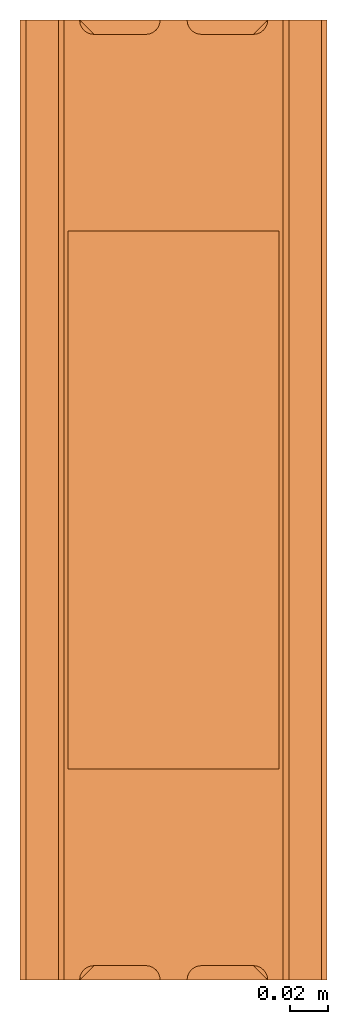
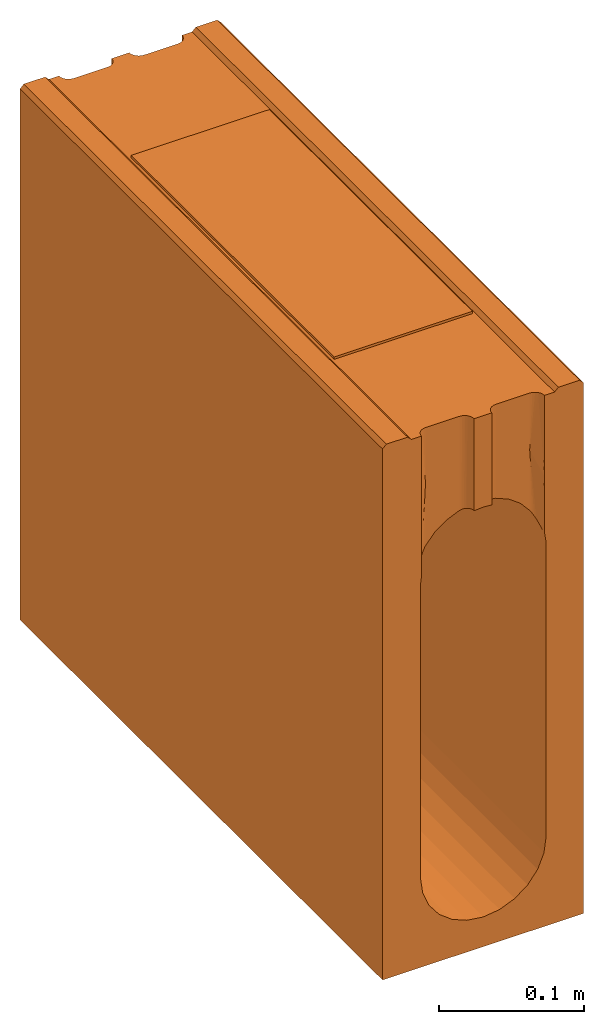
# One storey: 1 proxy.
"""IFC2X3 building model written with IfcOpenShell, lengths in millimetres."""

from ifc_helpers import new_model, entity, si_unit, converted_unit, direction, frame, origin, place, context, subcontext, project, spatial, faceted_brep, source, transform, mapped, material, element, save


model = new_model("IFC2X3")

# Units and contexts
model_context = context("Model", 3, precision=1e-06, world=origin(), true_north=direction((2.0, 6.12303176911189e-17, 1.0)))
context_of_model = context(None, 3, precision=1e-06, world=origin(), true_north=direction((2.0, 6.12303176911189e-17, 1.0)))
body_context = subcontext(model_context, "Body", "Model", "MODEL_VIEW")
ifc_project = project(units=[si_unit("LENGTHUNIT", "METRE", prefix="MILLI"), si_unit("AREAUNIT", "SQUARE_METRE", prefix="MILLI"), si_unit("VOLUMEUNIT", "CUBIC_METRE", prefix="MILLI"), converted_unit("PLANEANGLEUNIT", "DEGREE", entity("IfcRatioMeasure", 0.0174532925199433), si_unit("PLANEANGLEUNIT", "RADIAN"), dimensions=[0, 0, 0, 0, 0, 0, 0]), si_unit("TIMEUNIT", "SECOND")], contexts=[model_context, context_of_model])

# Site, building, storey
site_placement = place(None, origin())
site = spatial("IfcSite", under=ifc_project, at=site_placement, Name="Default", CompositionType="ELEMENT")
building_placement = place(site_placement, origin())
building = spatial("IfcBuilding", under=site, at=building_placement, CompositionType="ELEMENT")
storey_placement = place(building_placement, frame((0.0, 0.0, -4600.0)))
storey = spatial("IfcBuildingStorey", under=building, at=storey_placement, Name="B.O. Footing", CompositionType="ELEMENT", Elevation=-4600.0)

# Proxy
ifc_material = material(Name="Acetal Resin, Black")
shared_shape = source(origin(), body_context, "Body", "Brep", [
    faceted_brep([(6.99967983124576, 500.0, -3.0), (6.99967983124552, 500.0, -80.4539215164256), (-0.0189173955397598, 500.0, -79.9969682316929), (-7.0, 500.0, -80.5246623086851), (-7.0, 500.0, -3.0), (-80.0, 0.0, -450.0), (-48.0462913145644, 0.0, -387.940952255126), (-49.7500000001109, 0.0, -375.0), (-43.0512701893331, 0.0, -400.0), (-49.7499999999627, 0.0, -129.996245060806), (-12.6909522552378, 0.0, -423.296291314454), (-24.7500000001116, 0.0, -418.301270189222), (-35.1053390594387, 0.0, -410.355339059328), (0.24999999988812, 0.0, -425.0), (80.0, 0.0, -450.0), (-57.0, 0.0, -3.0), (-60.0, 0.0, 0.0), (-80.0, 0.0, -3.0), (-49.0, 0.0, -121.368528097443), (-77.0, 0.0, 0.0), (-49.5603428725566, 0.0, -125.645412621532), (-49.0, 0.0, -73.5563937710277), (-49.0, 0.0, -3.0), (13.190952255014, 0.0, -423.296291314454), (35.6053390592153, 0.0, -410.355339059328), (25.2499999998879, 0.0, -418.301270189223), (43.5512701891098, 0.0, -400.0), (48.5462913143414, 0.0, -387.940952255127), (50.2499999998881, 0.0, -375.0), (50.2499999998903, 0.0, -129.996245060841), (80.0, 0.0, -3.00030384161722), (49.0, 0.0, -118.886002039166), (49.9333247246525, 0.0, -124.377771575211), (57.0, 0.0, -3.0), (49.0, 0.0, -3.0), (49.0, 0.0, -71.0738676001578), (76.9996961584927, 0.0, 0.0), (60.0, 0.0, 0.0), (-7.0, 0.0, -3.0), (-7.0, 0.0, -80.5246623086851), (-0.0172292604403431, 0.0, -79.9969591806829), (6.99967983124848, 0.0, -80.4539215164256), (6.99967983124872, 0.0, -3.0), (80.0, 500.0, -450.0), (48.5462913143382, 500.0, -387.940952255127), (50.2499999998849, 500.0, -375.0), (43.5512701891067, 500.0, -400.0), (50.250000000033, 500.0, -129.996245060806), (13.1909522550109, 500.0, -423.296291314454), (25.2499999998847, 500.0, -418.301270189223), (35.6053390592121, 500.0, -410.355339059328), (0.249999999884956, 500.0, -425.0), (-80.0, 500.0, -450.0), (57.0, 500.0, -3.0), (76.9996961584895, 500.0, 0.0), (80.0, 500.0, -3.00030384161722), (49.0, 500.0, -118.886002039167), (60.0, 500.0, 0.0), (49.9336821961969, 500.0, -124.380933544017), (49.0, 500.0, -71.0738670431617), (49.0, 500.0, -3.0), (-12.6909522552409, 500.0, -423.296291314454), (-35.1053390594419, 500.0, -410.355339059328), (-24.7500000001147, 500.0, -418.301270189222), (-43.0512701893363, 500.0, -400.0), (-48.0462913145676, 500.0, -387.940952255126), (-49.750000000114, 500.0, -375.0), (-49.7499999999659, 500.0, -129.996245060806), (-80.0, 500.0, -3.0), (-49.0, 500.0, -121.368528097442), (-49.559996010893, 500.0, -125.641443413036), (-57.0, 500.0, -3.0), (-49.0, 500.0, -3.0), (-49.0, 500.0, -73.5563941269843), (-60.0, 500.0, 0.0), (-77.0, 500.0, 0.0), (27.4999999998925, 297.63139720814, -450.0), (14.2350474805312, 303.125920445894, -450.0), (38.8908729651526, 288.890872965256, -450.0), (0.0, 305.0, -450.0), (55.0, 250.0, -450.0), (53.1259204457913, 264.235047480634, -450.0), (47.6313972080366, 277.499999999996, -450.0), (-14.235047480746, 303.125920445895, -450.0), (-27.5000000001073, 297.63139720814, -450.0), (-38.8908729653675, 288.890872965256, -450.0), (-47.6313972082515, 277.499999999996, -450.0), (-53.1259204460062, 264.235047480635, -450.0), (-55.0, 250.0, -450.0), (47.6313972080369, 222.499999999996, -450.0), (53.1259204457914, 235.764952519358, -450.0), (38.890872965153, 211.109127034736, -450.0), (27.4999999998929, 202.368602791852, -450.0), (14.2350474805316, 196.874079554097, -450.0), (0.0, 195.0, -450.0), (-53.1259204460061, 235.764952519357, -450.0), (-47.6313972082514, 222.499999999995, -450.0), (-27.5000000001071, 202.368602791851, -450.0), (-14.2350474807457, 196.874079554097, -450.0), (-38.8908729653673, 211.109127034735, -450.0), (48.5987189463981, 497.579630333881, -117.252565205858), (48.5987189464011, 2.42036966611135, -117.252565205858), (47.8724699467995, 496.045050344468, -114.761404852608), (47.8724699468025, 3.95494965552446, -114.761404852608), (46.9553932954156, 494.853284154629, -112.146700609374), (46.9553932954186, 5.14671584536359, -112.146700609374), (41.5000000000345, 492.499999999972, -101.739608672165), (43.125993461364, 492.678378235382, -104.273702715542), (43.1259934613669, 7.32162176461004, -104.273702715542), (41.5000000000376, 7.50000000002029, -101.739608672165), (44.5814205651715, 493.162248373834, -106.872120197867), (44.5814205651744, 6.83775162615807, -106.872120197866), (45.8581398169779, 493.896180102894, -109.504842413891), (45.8581398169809, 6.10381989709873, -109.504842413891), (8.67334988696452, 495.277301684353, -80.7108803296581), (9.87649659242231, 494.094394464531, -80.931689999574), (9.87649659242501, 5.90560553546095, -80.931689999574), (8.67334988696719, 4.72269831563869, -80.7108803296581), (7.19284280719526, 498.30880731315, -80.4806219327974), (7.19284280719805, 1.6911926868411, -80.4806219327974), (7.76144252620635, 496.706649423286, -80.563682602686), (7.76144252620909, 3.29335057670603, -80.5636826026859), (24.9231686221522, 492.499999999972, -86.5079161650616), (34.0799742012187, 492.499999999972, -93.1786834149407), (34.0799742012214, 7.50000000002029, -93.1786834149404), (24.9231686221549, 7.50000000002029, -86.5079161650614), (11.3020957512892, 493.215793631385, -81.2330296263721), (12.8707399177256, 492.679033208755, -81.6152888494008), (12.8707399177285, 7.32096679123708, -81.6152888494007), (11.302095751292, 6.7842063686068, -81.233029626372), (14.4996798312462, 492.499999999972, -82.0697740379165), (14.4996798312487, 7.50000000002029, -82.0697740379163), (-7.76344965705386, 496.703200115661, -80.6425762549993), (-7.19362627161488, 498.306806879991, -80.5534252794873), (-7.19362627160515, 1.69319312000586, -80.5534252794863), (-7.76344965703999, 3.29679988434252, -80.6425762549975), (-8.67685848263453, 495.273370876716, -80.7995866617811), (-8.67685848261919, 4.72662912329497, -80.7995866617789), (-9.8810851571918, 494.091055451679, -81.0333906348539), (-9.88108515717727, 5.90894454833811, -81.0333906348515), (-34.1443454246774, 492.499999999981, -93.7053508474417), (-24.9841446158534, 492.499999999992, -86.8310050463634), (-24.9841446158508, 7.50000000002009, -86.8310050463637), (-34.1443454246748, 7.50000000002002, -93.7053508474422), (-12.8738232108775, 492.678418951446, -81.7493253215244), (-11.3066605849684, 493.21379462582, -81.3501393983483), (-11.3066605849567, 6.78620537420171, -81.3501393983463), (-12.87382321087, 7.32158104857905, -81.7493253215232), (-48.6094823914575, 497.611431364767, -119.377818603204), (-47.923787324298, 496.128959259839, -116.606464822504), (-47.9237873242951, 3.87104074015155, -116.606464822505), (-48.6094823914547, 2.38856863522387, -119.377818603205), (-47.0369451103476, 494.941122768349, -113.749866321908), (-47.0369451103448, 5.05887723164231, -113.749866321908), (-43.1807877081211, 492.69076251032, -105.221930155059), (-41.4999999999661, 492.499999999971, -102.483747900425), (-41.4999999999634, 7.50000000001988, -102.483747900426), (-43.1807877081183, 7.30923748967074, -105.221930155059), (-45.9520376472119, 493.964325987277, -110.881546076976), (-45.9520376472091, 6.03567401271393, -110.881546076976), (-44.6669636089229, 493.201445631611, -108.031127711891), (-44.6669636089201, 6.79855436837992, -108.031127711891), (-14.4999999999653, 492.500000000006, -82.2213824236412), (-14.4999999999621, 7.50000000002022, -82.2213824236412), (-48.7444436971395, 498.058857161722, -3.0), (-47.9951905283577, 496.249999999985, -3.0), (-7.2555563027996, 498.058857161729, -3.0), (7.25523613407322, 498.058857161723, -3.0), (-8.00480947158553, 496.25, -3.0), (8.00448930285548, 496.249999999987, -3.0), (-46.803300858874, 494.69669914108, -3.0), (-45.2499999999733, 493.504809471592, -3.0), (-41.4999999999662, 492.499999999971, -3.0), (-43.441142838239, 492.755556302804, -3.0), (-43.4411428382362, 7.24444369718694, -3.0), (-41.4999999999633, 7.50000000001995, -3.0), (-45.2499999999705, 6.49519052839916, -3.0), (-9.1966991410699, 494.696699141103, -3.0), (-10.7499999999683, 493.504809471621, -3.0), (10.7496798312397, 493.504809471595, -3.0), (9.19637897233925, 494.696699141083, -3.0), (12.5585369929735, 492.755556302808, -3.0), (-12.5588571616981, 492.755556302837, -3.0), (-14.4999999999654, 492.500000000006, -3.0), (14.4996798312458, 492.499999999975, -3.0), (-14.4999999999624, 7.50000000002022, -3.0), (48.7444436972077, 498.058857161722, -3.0), (47.9951905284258, 496.249999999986, -3.0), (46.8033008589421, 494.696699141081, -3.0), (45.2500000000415, 493.504809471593, -3.0), (43.4411428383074, 492.755556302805, -3.0), (41.5000000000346, 492.499999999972, -3.0), (43.4411428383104, 7.24444369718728, -3.0), (45.2500000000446, 6.49519052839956, -3.0), (41.5000000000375, 7.50000000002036, -3.0), (14.4996798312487, 7.50000000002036, -3.0), (-12.5588571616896, 7.24444369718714, -3.0), (-10.7499999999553, 6.49519052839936, -3.0), (-9.19669914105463, 5.30330085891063, -3.0), (10.7496798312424, 6.49519052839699, -3.0), (12.5585369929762, 7.24444369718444, -3.0), (-48.7444436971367, 1.94114283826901, -3.0), (-47.9951905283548, 3.75000000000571, -3.0), (-46.8033008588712, 5.30330085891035, -3.0), (7.25523613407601, 1.94114283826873, -3.0), (-7.25555630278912, 1.94114283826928, -3.0), (8.00448930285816, 3.75000000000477, -3.0), (-8.00480947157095, 3.75000000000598, -3.0), (9.19637897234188, 5.3033008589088, -3.0), (47.995190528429, 3.75000000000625, -3.0), (48.7444436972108, 1.94114283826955, -3.0), (46.8033008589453, 5.30330085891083, -3.0), (41.5000000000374, 7.50000000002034, -50.8121350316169), (-41.4999999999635, 7.50000000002, -50.8121324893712), (-27.5000000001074, 297.63139720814, -440.0), (-14.2350474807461, 303.125920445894, -440.0), (47.6313972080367, 277.499999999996, -440.0), (-38.8908729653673, 211.109127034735, -440.0), (-47.6313972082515, 277.499999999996, -440.0), (-38.8908729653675, 288.890872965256, -440.0), (-55.0, 250.0, -440.0), (-53.1259204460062, 264.235047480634, -440.0), (0.0, 305.0, -440.0), (14.2350474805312, 303.125920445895, -440.0), (27.4999999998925, 297.63139720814, -440.0), (38.8908729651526, 288.890872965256, -440.0), (53.1259204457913, 264.235047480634, -440.0), (0.0, 195.0, -440.0), (-47.6313972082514, 222.499999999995, -440.0), (-53.1259204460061, 235.764952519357, -440.0), (-14.2350474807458, 196.874079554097, -440.0), (-27.5000000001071, 202.368602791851, -440.0), (14.2350474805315, 196.874079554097, -440.0), (53.1259204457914, 235.764952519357, -440.0), (47.6313972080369, 222.499999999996, -440.0), (27.4999999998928, 202.368602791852, -440.0), (55.0, 250.0, -440.0), (38.8908729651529, 211.109127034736, -440.0), (41.5000000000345, 492.499999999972, -50.8121352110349), (-41.4999999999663, 492.499999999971, -50.8121352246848)], [[[0, 1, 2]], [[2, 3, 4, 0]], [[5, 6, 7]], [[6, 5, 8]], [[5, 7, 9]], [[10, 11, 5]], [[12, 8, 5]], [[11, 12, 5]], [[13, 10, 5, 14]], [[15, 16, 17, 18]], [[16, 19, 17]], [[18, 17, 20]], [[15, 18, 21, 22]], [[9, 20, 17, 5]], [[23, 13, 14]], [[24, 25, 14]], [[23, 14, 25]], [[26, 14, 27]], [[14, 26, 24]], [[28, 27, 14]], [[29, 28, 14, 30]], [[30, 31, 32]], [[33, 34, 35, 31]], [[32, 29, 30]], [[30, 36, 33, 31]], [[36, 37, 33]], [[38, 39, 40]], [[40, 41, 42, 38]], [[43, 44, 45]], [[44, 43, 46]], [[43, 45, 47]], [[48, 49, 43]], [[50, 46, 43]], [[49, 50, 43]], [[51, 48, 43, 52]], [[53, 54, 55, 56]], [[57, 54, 53]], [[56, 55, 58]], [[53, 56, 59, 60]], [[47, 58, 55, 43]], [[61, 51, 52]], [[62, 63, 52]], [[61, 52, 63]], [[64, 52, 65]], [[52, 64, 62]], [[66, 65, 52]], [[67, 66, 52, 68]], [[68, 69, 70]], [[71, 72, 73, 69]], [[70, 67, 68]], [[68, 74, 71, 69]], [[75, 74, 68]], [[43, 55, 30, 14]], [[43, 76, 77]], [[76, 43, 78]], [[43, 77, 79]], [[80, 81, 43, 14]], [[82, 78, 43]], [[81, 82, 43]], [[79, 83, 52, 43]], [[52, 83, 84]], [[84, 85, 52]], [[86, 87, 52]], [[85, 86, 52]], [[52, 87, 88]], [[89, 90, 14]], [[91, 89, 14]], [[92, 14, 93]], [[14, 92, 91]], [[94, 93, 14, 5]], [[90, 80, 14]], [[95, 96, 5]], [[88, 95, 5, 52]], [[97, 98, 5]], [[99, 5, 96]], [[5, 99, 97]], [[98, 94, 5]], [[64, 65, 6, 8]], [[62, 64, 8, 12]], [[61, 63, 11, 10]], [[63, 62, 12, 11]], [[51, 61, 10, 13]], [[65, 66, 7, 6]], [[49, 48, 23, 25]], [[50, 49, 25, 24]], [[44, 46, 26, 27]], [[46, 50, 24, 26]], [[45, 44, 27, 28]], [[13, 23, 48, 51]], [[7, 66, 67, 9]], [[58, 47, 29]], [[100, 56, 31, 101]], [[32, 56, 58]], [[102, 100, 101, 103]], [[104, 102, 103, 105]], [[106, 107, 108, 109]], [[107, 110, 111, 108]], [[110, 112, 113, 111]], [[112, 104, 105, 113]], [[114, 115, 116, 117]], [[1, 118, 119, 41]], [[118, 120, 121, 119]], [[120, 114, 117, 121]], [[122, 123, 124, 125]], [[126, 127, 128, 129]], [[127, 130, 131, 128]], [[123, 106, 109, 124]], [[115, 126, 129, 116]], [[130, 122, 125, 131]], [[32, 58, 29]], [[56, 32, 31]], [[1, 41, 40]], [[40, 2, 1]], [[3, 2, 39]], [[132, 133, 134, 135]], [[133, 3, 39, 134]], [[136, 132, 135, 137]], [[138, 136, 137, 139]], [[140, 141, 142, 143]], [[144, 145, 146, 147]], [[145, 138, 139, 146]], [[148, 149, 150, 151]], [[70, 69, 18]], [[69, 148, 151, 18]], [[149, 152, 153, 150]], [[154, 155, 156, 157]], [[152, 158, 159, 153]], [[158, 160, 161, 159]], [[160, 154, 157, 161]], [[20, 67, 70]], [[155, 140, 143, 156]], [[141, 162, 163, 142]], [[147, 163, 162, 144]], [[20, 70, 18]], [[20, 9, 67]], [[40, 39, 2]], [[47, 45, 28, 29]], [[68, 52, 5, 17]], [[71, 164, 72]], [[164, 71, 165]], [[4, 166, 167, 0]], [[166, 168, 169, 167]], [[71, 170, 165]], [[171, 170, 71, 15]], [[172, 173, 174, 175]], [[173, 171, 176, 174]], [[177, 178, 179, 180]], [[181, 182, 183, 184]], [[178, 182, 181, 179]], [[183, 172, 175, 185]], [[168, 177, 180, 169]], [[53, 60, 186]], [[186, 187, 53]], [[53, 187, 188]], [[53, 188, 189, 33]], [[190, 191, 192, 193]], [[189, 190, 193]], [[194, 191, 184, 195]], [[183, 185, 184]], [[185, 196, 195, 184]], [[197, 198, 199, 200]], [[196, 197, 200, 195]], [[201, 202, 15]], [[15, 22, 201]], [[202, 203, 15]], [[204, 205, 38, 42]], [[206, 207, 205, 204]], [[15, 203, 176, 171]], [[198, 207, 208, 199]], [[194, 192, 191]], [[209, 210, 33]], [[34, 33, 210]], [[209, 33, 211]], [[193, 211, 33, 189]], [[208, 207, 206]], [[75, 68, 17, 19]], [[16, 74, 75, 19]], [[71, 74, 16, 15]], [[37, 57, 53, 33]], [[54, 57, 37, 36]], [[30, 55, 54, 36]], [[194, 125, 124]], [[124, 109, 212, 194]], [[194, 195, 131, 125]], [[193, 212, 211]], [[209, 211, 35]], [[210, 209, 35]], [[194, 212, 192]], [[212, 108, 111]], [[109, 108, 212]], [[35, 211, 212]], [[35, 212, 113]], [[193, 192, 212]], [[35, 34, 210]], [[35, 101, 31]], [[103, 101, 35]], [[113, 105, 35]], [[105, 103, 35]], [[111, 113, 212]], [[204, 42, 119]], [[206, 204, 121]], [[42, 41, 119]], [[206, 121, 117]], [[121, 204, 119]], [[117, 208, 206]], [[199, 208, 116]], [[200, 199, 129]], [[195, 200, 128]], [[199, 116, 129]], [[195, 128, 131]], [[128, 200, 129]], [[117, 116, 208]], [[175, 213, 143, 142]], [[163, 185, 175, 142]], [[196, 185, 147]], [[197, 196, 146]], [[185, 163, 147]], [[197, 146, 139]], [[146, 196, 147]], [[139, 198, 197]], [[207, 198, 137]], [[205, 207, 135]], [[38, 205, 134]], [[207, 137, 135]], [[38, 134, 39]], [[134, 205, 135]], [[139, 137, 198]], [[203, 213, 176]], [[21, 159, 213]], [[21, 18, 151]], [[151, 150, 21]], [[21, 150, 153]], [[213, 203, 21]], [[156, 213, 157]], [[161, 157, 213]], [[203, 202, 21]], [[213, 175, 174]], [[22, 21, 201]], [[159, 161, 213]], [[159, 21, 153]], [[21, 202, 201]], [[174, 176, 213]], [[214, 215, 216, 217]], [[218, 219, 214, 217]], [[220, 221, 218, 217]], [[222, 223, 224, 215]], [[224, 225, 216, 215]], [[216, 226, 227, 217]], [[217, 228, 229, 220]], [[217, 227, 230, 231]], [[226, 232, 227]], [[233, 234, 235, 236]], [[237, 235, 234]], [[236, 235, 232, 226]], [[226, 81, 80, 236]], [[216, 82, 81, 226]], [[224, 76, 78, 225]], [[225, 78, 82, 216]], [[223, 77, 76, 224]], [[77, 223, 222, 79]], [[215, 83, 79, 222]], [[214, 84, 83, 215]], [[218, 86, 85, 219]], [[219, 85, 84, 214]], [[221, 87, 86, 218]], [[87, 221, 220, 88]], [[229, 95, 88, 220]], [[228, 96, 95, 229]], [[231, 97, 99, 217]], [[217, 99, 96, 228]], [[230, 98, 97, 231]], [[98, 230, 227, 94]], [[232, 93, 94, 227]], [[235, 92, 93, 232]], [[234, 89, 91, 237]], [[237, 91, 92, 235]], [[233, 90, 89, 234]], [[90, 233, 236, 80]], [[181, 184, 127]], [[179, 181, 126]], [[184, 130, 127]], [[179, 126, 115]], [[126, 181, 127]], [[115, 180, 179]], [[169, 180, 114]], [[167, 169, 120]], [[0, 167, 118]], [[169, 114, 120]], [[0, 118, 1]], [[118, 167, 120]], [[115, 114, 180]], [[60, 59, 186]], [[188, 238, 189]], [[59, 112, 238]], [[59, 56, 100]], [[59, 100, 102]], [[102, 104, 59]], [[106, 238, 107]], [[59, 187, 186]], [[238, 188, 59]], [[110, 107, 238]], [[238, 191, 190]], [[187, 59, 188]], [[112, 110, 238]], [[112, 59, 104]], [[190, 189, 238]], [[191, 238, 123, 122]], [[130, 184, 191, 122]], [[165, 73, 164]], [[73, 165, 170]], [[170, 171, 239]], [[171, 173, 239]], [[172, 239, 173]], [[239, 154, 160]], [[155, 154, 239]], [[73, 170, 239]], [[73, 239, 158]], [[164, 73, 72]], [[73, 148, 69]], [[149, 148, 73]], [[158, 152, 73]], [[149, 73, 152]], [[160, 158, 239]], [[166, 4, 133]], [[168, 166, 132]], [[4, 3, 133]], [[168, 132, 136]], [[132, 166, 133]], [[136, 177, 168]], [[178, 177, 138]], [[182, 178, 145]], [[183, 182, 144]], [[178, 138, 145]], [[183, 144, 162]], [[144, 182, 145]], [[136, 138, 177]], [[172, 141, 140]], [[140, 155, 239, 172]], [[172, 183, 162, 141]], [[143, 213, 156]], [[123, 238, 106]]]),
    faceted_brep([(55.0, 390.0, -1.0), (-55.0, 390.0, -1.0), (-55.0, 250.0, -1.0), (-55.0, 110.0, -1.0), (55.0, 110.0, -1.0), (55.0, 110.0, -5.0), (-55.0, 110.0, -5.0), (-55.0, 250.0, -5.0), (-55.0, 390.0, -5.0), (55.0, 390.0, -5.0)], [[[0, 1, 2]], [[2, 3, 4, 0]], [[5, 6, 7]], [[7, 8, 9, 5]], [[2, 1, 8, 7]], [[3, 2, 7, 6]], [[4, 3, 6, 5]], [[0, 4, 5, 9]], [[1, 0, 9, 8]]]),
])
proxy_placement = place(storey_placement, frame((-63315.5678793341, 29124.476162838, 300.0)))
element("IfcBuildingElementProxy", 1, at=proxy_placement, inside=storey, material=ifc_material, Name="Civil-Drainage-Channel-ACO-RoadDrain 100:32503 - PD100 F 50.3 Rodding Access 500mm LG:32503 - PD100 F 50.3 Rodding Access 500mm LG", ObjectType="32503 - PD100 F 50.3 Rodding Access 500mm LG", CompositionType="ELEMENT", context=body_context, shape_type="MappedRepresentation", body=[
    mapped(shared_shape, transform((0.0, 0.0, 0.0), scale=1.0)),
])

save(model, "model.ifc")
